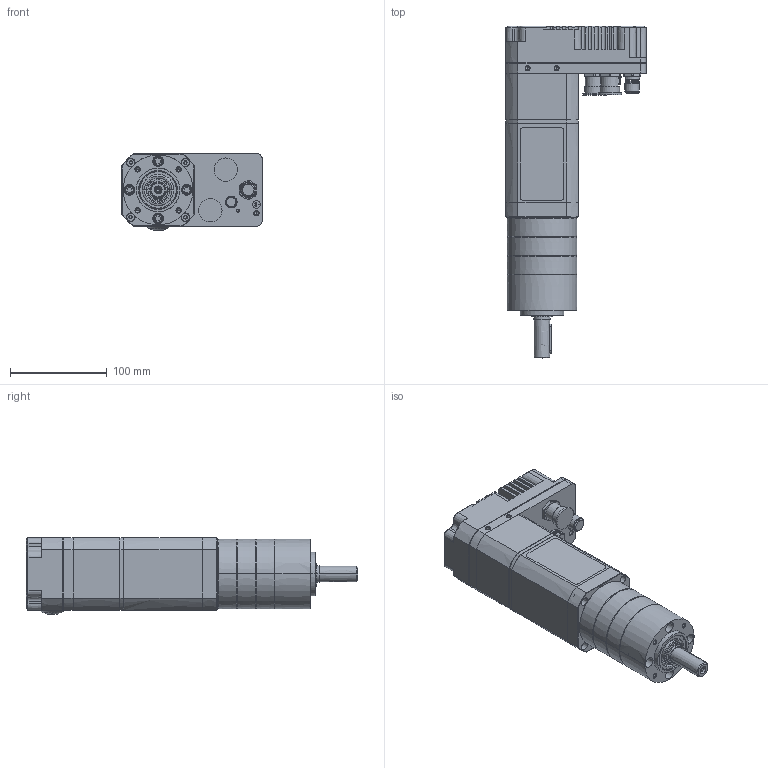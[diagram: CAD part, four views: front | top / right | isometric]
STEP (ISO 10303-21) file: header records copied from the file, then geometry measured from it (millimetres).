
FILE_DESCRIPTION((''),'2;1');
FILE_NAME('8035D1_3STAGES','2018-09-18T',('alecma1'),('CROUZET-AUTOMATISMES'),'CREO PARAMETRIC BY PTC INC, 2017170','CREO PARAMETRIC BY PTC INC, 2017170','');
FILE_SCHEMA(('AP203_CONFIGURATION_CONTROLLED_3D_DESIGN_OF_MECHANICAL_PARTS_AND_ASSEMBLIES_MIM_LF { 1 0 10303 403 2 1 2 }'));
Products named in the file (1): 8035D1_3STAGES
Bounding box: 145 x 342.45 x 79.7 mm (x, y, z)
Surface area: 160940.9 mm2 (no closed solid volume)
Topology: 0 solids, 0 shells, 786 faces, 4115 edges, 4049 vertices
Faces by surface type: bspline 734, torus 48, sphere 4
Entity records: 78076 total; most frequent: CARTESIAN_POINT 34542, DIRECTION 6361, TRIMMED_CURVE 5316, VECTOR 4400, LINE 4400, DEFINITIONAL_REPRESENTATION 4003, PCURVE 4003, COMPOSITE_CURVE_SEGMENT 4003
